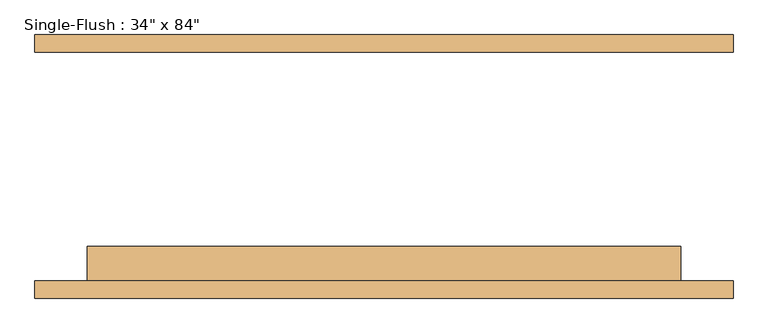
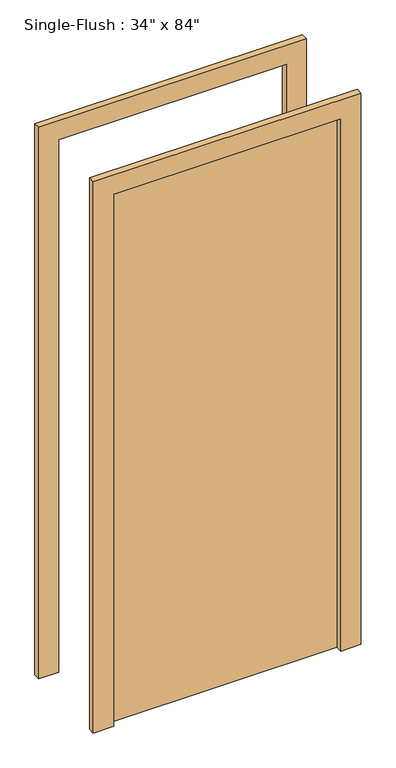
"""IFC4 building model written with IfcOpenShell, lengths in millimetres: door geometry."""

from ifc_helpers import new_model, si_unit, frame, origin, origin_with_axes, place, context, project, spatial, polyline, outline, extrude, source, transform, mapped, element, save


def door_23d6347b(model_context):
    return source(origin(), model_context, "Body", "SweptSolid", [
        extrude(outline(polyline([(2209.8, -508.0), (0.0, -508.0), (0.0, -431.8), (2133.6, -431.8), (2133.6, 431.8), (0.0, 431.8), (0.0, 508.0), (2209.8, 508.0), (2209.8, -508.0)])), frame((0.0, -192.0875, 0.0), z_axis=(0.0, 1.0, 0.0), x_axis=(0.0, 0.0, 1.0)), (0.0, 0.0, 1.0), 25.4),
        extrude(outline(polyline([(2209.8, 508.0), (2209.8, -508.0), (0.0, -508.0), (0.0, -431.8), (2133.6, -431.8), (2133.6, 431.8), (0.0, 431.8), (0.0, 508.0), (2209.8, 508.0)])), frame((0.0, 166.6875, 0.0), z_axis=(0.0, 1.0, 0.0), x_axis=(0.0, 0.0, 1.0)), (0.0, 0.0, 1.0), 25.4),
        extrude(outline(polyline([(431.8, -115.8875), (431.8, -166.6875), (-431.8, -166.6875), (-431.8, -115.8875), (431.8, -115.8875)])), origin_with_axes(), (0.0, 0.0, 1.0), 2133.6),
    ])


if __name__ == "__main__":
    model = new_model("IFC4")
    model_context = context("Model", 3, world=origin())
    ifc_project = project(units=[si_unit("LENGTHUNIT", "METRE", prefix="MILLI")], contexts=[model_context])
    site = spatial("IfcSite", under=ifc_project)
    building = spatial("IfcBuilding", under=site)
    placement = place(None, origin())
    door_shape = door_23d6347b(model_context)
    element("IfcDoor", 1, ObjectType="Single-Flush : 34\" x 84\"", at=placement, inside=building, context=model_context, shape_type="MappedRepresentation", body=[
        mapped(door_shape, transform((0.0, 0.0, 0.0), x_axis=(1.0, 0.0, 0.0), y_axis=(0.0, 1.0, 0.0), z_axis=(0.0, 0.0, 1.0))),
    ])
    save(model, "model.ifc")
